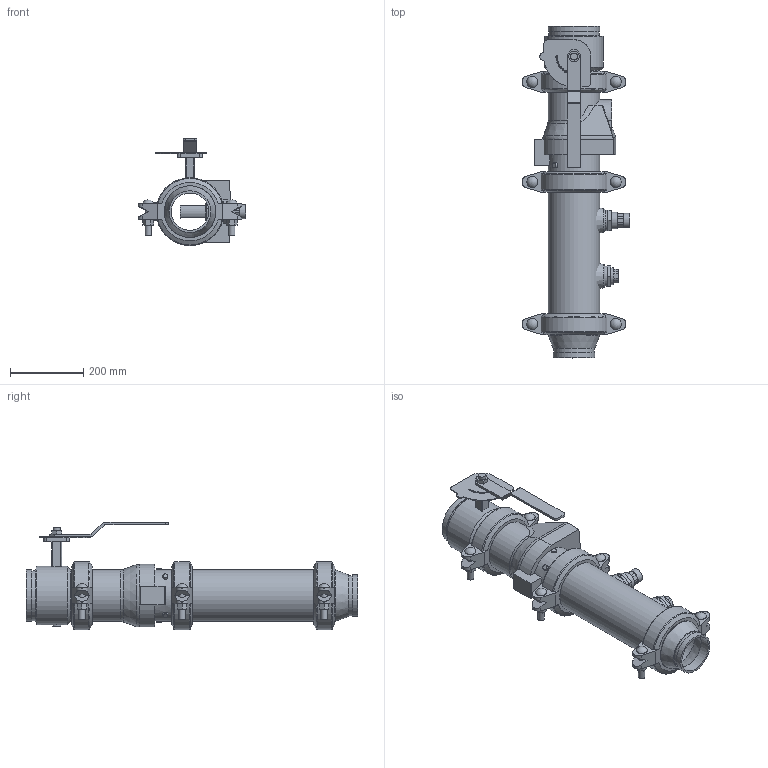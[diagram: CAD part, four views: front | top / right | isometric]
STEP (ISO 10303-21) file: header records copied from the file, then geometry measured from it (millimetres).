
FILE_DESCRIPTION(/* description */ ('VIC DVI PUMP DROP VERT S/380G (OGS)','CAx-IF Rec.Pracs.---Representation and Presentation of Product Manufacturing Information (PMI)---4.0---2014-10-13'),/* implementation_level */ '2;1');
FILE_NAME(/* name */ 'C:\Users\Public\Documents\Victaulic.Temp\A958\Victaulic_IPS_Vertical DVI_Series 380G (OGSxOGS)_05.0x04.0 (125x100).stp',/* time_stamp */ '2022-07-25T12:43:43+02:00',/* author */ ('Vjadhav'),/* organization */ ('Victaulic'),/* preprocessor_version */ 'ST-DEVELOPER v18',/* originating_system */ 'Autodesk Inventor 2020',/* authorisation */ '');
FILE_SCHEMA (('AP242_MANAGED_MODEL_BASED_3D_ENGINEERING_MIM_LF { 1 0 10303 442 1 1 4 }'));
Length unit declared in the file: inch
Products named in the file (8): 380G-05.0x04.0; 050-05.0x04.0; Pipe-05.0; 177N-05.0; 761-05.0; 779-05.0; 923-04.0x0.75; 924-04.0x0.75
Assembly tree (9 placements, depth 2):
  380G-05.0x04.0
    050-05.0x04.0
    177N-05.0  x3
    Pipe-05.0
    761-05.0
    779-05.0
    923-04.0x0.75
    924-04.0x0.75
Bounding box: 294.96 x 908.05 x 293.24 mm (x, y, z)
Volume: 7246508.3 mm3; surface area: 1319830.3 mm2
Topology: 9 solids, 10 shells, 572 faces, 1490 edges, 996 vertices
Faces by surface type: plane 337, cylinder 189, cone 20, torus 18, sphere 6, bspline 2
Full cylindrical faces by diameter (mm): 4.826 x10, 8.636 x4, 13.716 x4, 17.78 x6, 19.05 x2, 22.86 x1, 26.67 x2, 30.48 x6, 38.608 x1, 45.974 x4, 55.118 x1, 55.626 x2, 102.26 x1, 110.084 x1, 114.3 x2, 128.194 x4, 128.6 x3, 137.033 x7, 141.3 x19, 160.02 x1
Entity records: 13372 total; most frequent: CARTESIAN_POINT 2683, DIRECTION 2206, ORIENTED_EDGE 2008, EDGE_CURVE 1004, AXIS2_PLACEMENT_3D 839, VERTEX_POINT 676, LINE 528, VECTOR 528
